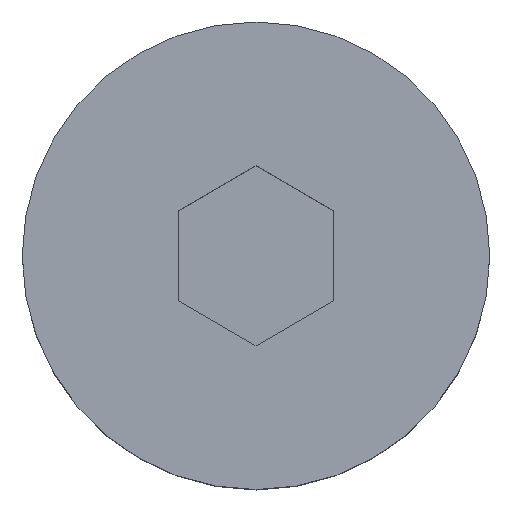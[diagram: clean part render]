
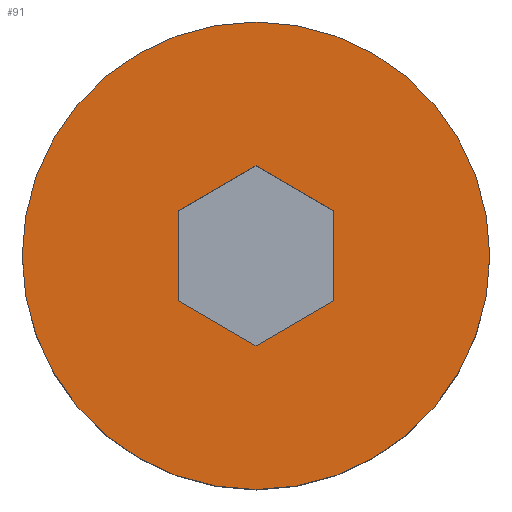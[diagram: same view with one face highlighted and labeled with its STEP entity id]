
A CAD part, top view. The second image highlights one B-rep face of the part: STEP entity #91.
In plain terms, the highlighted planar face has unit normal (0, 0, 1).
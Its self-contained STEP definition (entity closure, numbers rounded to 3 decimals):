
#2 = EDGE_LOOP ( 'NONE', ( #796, #268 ) ) ;
#3 = LINE ( 'NONE', #77, #939 ) ;
#60 = CARTESIAN_POINT ( 'NONE',  ( -1.5, -2.598, 9. ) ) ;
#72 = CARTESIAN_POINT ( 'NONE',  ( 0., 3.464, 9. ) ) ;
#77 = CARTESIAN_POINT ( 'NONE',  ( 1.5, 2.598, 9. ) ) ;
#91 = ADVANCED_FACE ( 'NONE', ( #441, #368 ), #837, .F. ) ;
#105 = CARTESIAN_POINT ( 'NONE',  ( -3., 1.732, 9. ) ) ;
#112 = DIRECTION ( 'NONE',  ( -0.866, -0.5, 0. ) ) ;
#119 = DIRECTION ( 'NONE',  ( 0., 0., -1. ) ) ;
#126 = CARTESIAN_POINT ( 'NONE',  ( 3., 1.732, 9. ) ) ;
#133 = VERTEX_POINT ( 'NONE', #126 ) ;
#141 = EDGE_CURVE ( 'NONE', #167, #381, #203, .T. ) ;
#159 = EDGE_CURVE ( 'NONE', #1104, #167, #637, .T. ) ;
#163 = ORIENTED_EDGE ( 'NONE', *, *, #159, .F. ) ;
#167 = VERTEX_POINT ( 'NONE', #105 ) ;
#174 = CARTESIAN_POINT ( 'NONE',  ( 0., 0., 9. ) ) ;
#203 = LINE ( 'NONE', #241, #1165 ) ;
#206 = VERTEX_POINT ( 'NONE', #944 ) ;
#228 = DIRECTION ( 'NONE',  ( 0., -1., 0. ) ) ;
#241 = CARTESIAN_POINT ( 'NONE',  ( -3., 0., 9. ) ) ;
#259 = CIRCLE ( 'NONE', #991, 9. ) ;
#261 = CARTESIAN_POINT ( 'NONE',  ( -3., -1.732, 9. ) ) ;
#265 = EDGE_CURVE ( 'NONE', #969, #206, #534, .T. ) ;
#268 = ORIENTED_EDGE ( 'NONE', *, *, #1162, .F. ) ;
#272 = DIRECTION ( 'NONE',  ( -1., 0., 0. ) ) ;
#335 = DIRECTION ( 'NONE',  ( 0., 0., -1. ) ) ;
#350 = EDGE_CURVE ( 'NONE', #381, #969, #499, .T. ) ;
#352 = CARTESIAN_POINT ( 'NONE',  ( 0., -3.464, 9. ) ) ;
#363 = VERTEX_POINT ( 'NONE', #436 ) ;
#368 = FACE_BOUND ( 'NONE', #717, .T. ) ;
#381 = VERTEX_POINT ( 'NONE', #261 ) ;
#420 = EDGE_CURVE ( 'NONE', #363, #451, #814, .T. ) ;
#436 = CARTESIAN_POINT ( 'NONE',  ( -9., 0., 9. ) ) ;
#441 = FACE_OUTER_BOUND ( 'NONE', #2, .T. ) ;
#451 = VERTEX_POINT ( 'NONE', #1060 ) ;
#499 = LINE ( 'NONE', #60, #976 ) ;
#528 = VECTOR ( 'NONE', #701, 1000. ) ;
#534 = LINE ( 'NONE', #1151, #981 ) ;
#631 = ORIENTED_EDGE ( 'NONE', *, *, #141, .F. ) ;
#637 = LINE ( 'NONE', #657, #780 ) ;
#657 = CARTESIAN_POINT ( 'NONE',  ( -1.5, 2.598, 9. ) ) ;
#662 = CARTESIAN_POINT ( 'NONE',  ( 0., 0., 9. ) ) ;
#701 = DIRECTION ( 'NONE',  ( 0., 1., 0. ) ) ;
#717 = EDGE_LOOP ( 'NONE', ( #163, #730, #764, #1102, #832, #631 ) ) ;
#730 = ORIENTED_EDGE ( 'NONE', *, *, #1140, .F. ) ;
#750 = DIRECTION ( 'NONE',  ( -1., 0., 0. ) ) ;
#753 = LINE ( 'NONE', #1069, #528 ) ;
#764 = ORIENTED_EDGE ( 'NONE', *, *, #1001, .F. ) ;
#780 = VECTOR ( 'NONE', #112, 1000. ) ;
#796 = ORIENTED_EDGE ( 'NONE', *, *, #420, .F. ) ;
#805 = DIRECTION ( 'NONE',  ( 0., 0., -1. ) ) ;
#814 = CIRCLE ( 'NONE', #934, 9. ) ;
#832 = ORIENTED_EDGE ( 'NONE', *, *, #350, .F. ) ;
#837 = PLANE ( 'NONE',  #958 ) ;
#867 = CARTESIAN_POINT ( 'NONE',  ( 0., 0., 9. ) ) ;
#877 = DIRECTION ( 'NONE',  ( 0.866, -0.5, 0. ) ) ;
#934 = AXIS2_PLACEMENT_3D ( 'NONE', #867, #335, #959 ) ;
#939 = VECTOR ( 'NONE', #984, 1000. ) ;
#944 = CARTESIAN_POINT ( 'NONE',  ( 3., -1.732, 9. ) ) ;
#955 = DIRECTION ( 'NONE',  ( 0.866, 0.5, 0. ) ) ;
#958 = AXIS2_PLACEMENT_3D ( 'NONE', #662, #119, #750 ) ;
#959 = DIRECTION ( 'NONE',  ( -1., 0., 0. ) ) ;
#969 = VERTEX_POINT ( 'NONE', #352 ) ;
#976 = VECTOR ( 'NONE', #877, 1000. ) ;
#981 = VECTOR ( 'NONE', #955, 1000. ) ;
#984 = DIRECTION ( 'NONE',  ( -0.866, 0.5, 0. ) ) ;
#991 = AXIS2_PLACEMENT_3D ( 'NONE', #174, #805, #272 ) ;
#1001 = EDGE_CURVE ( 'NONE', #206, #133, #753, .T. ) ;
#1060 = CARTESIAN_POINT ( 'NONE',  ( 9., 0., 9. ) ) ;
#1069 = CARTESIAN_POINT ( 'NONE',  ( 3., 0., 9. ) ) ;
#1102 = ORIENTED_EDGE ( 'NONE', *, *, #265, .F. ) ;
#1104 = VERTEX_POINT ( 'NONE', #72 ) ;
#1140 = EDGE_CURVE ( 'NONE', #133, #1104, #3, .T. ) ;
#1151 = CARTESIAN_POINT ( 'NONE',  ( 1.5, -2.598, 9. ) ) ;
#1162 = EDGE_CURVE ( 'NONE', #451, #363, #259, .T. ) ;
#1165 = VECTOR ( 'NONE', #228, 1000. ) ;
